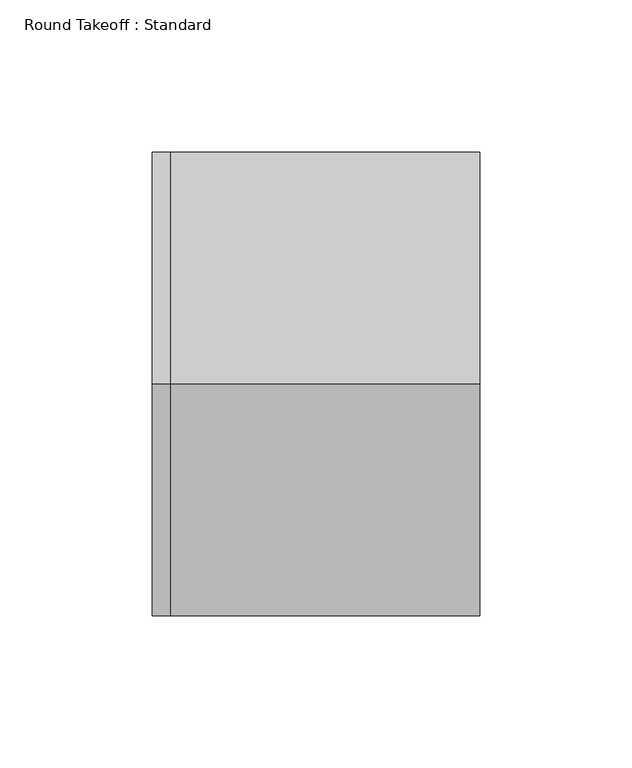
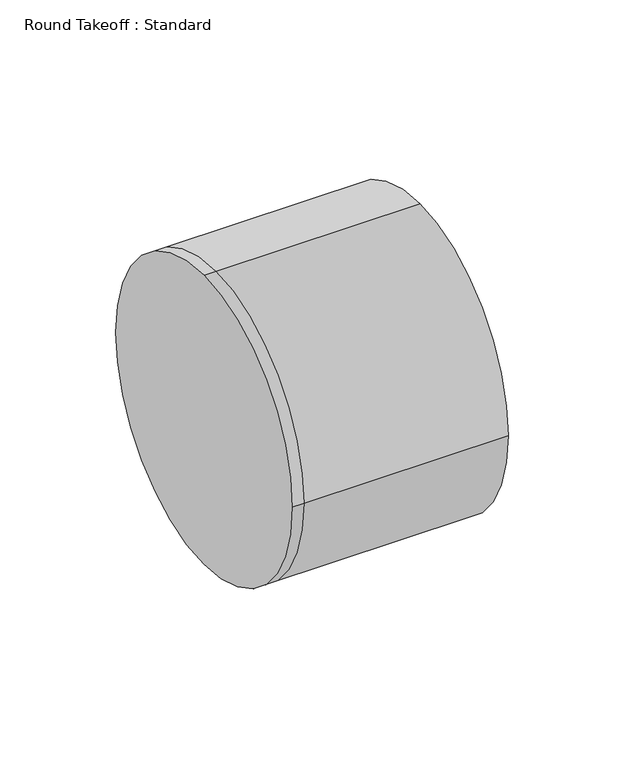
"""IFC4 building model written with IfcOpenShell, lengths in millimetres: duct fitting geometry, Round Takeoff : Standard."""

from ifc_helpers import new_model, si_unit, frame, origin, place, context, project, spatial, circle_curve, source, transform, mapped, element, save
from ifc_brep_helpers import plane_surface, cylinder_surface, advanced_brep


def round_takeoff_standard_0a2b6d05(model_context):
    return source(origin(), model_context, "Body", "AdvancedBrep", [
        advanced_brep(
        [(101.6, 0.0, 76.2), (101.6, -76.2, 0.0), (101.6, 0.0, -76.2), (101.6, 76.2, 0.0), (0.0, 76.2, 0.0), (0.0, 0.0, 76.2), (0.0, 0.0, -76.2), (0.0, -76.2, 0.0), (-6.096, 0.0, 76.2), (-6.096, 76.2, 0.0), (-6.096, 0.0, -76.2), (-6.096, -76.2, 0.0)],
        [
            (0, 1, circle_curve(frame((101.6, 0.0, 0.0), z_axis=(1.0, 0.0, 0.0), x_axis=(0.0, 1.0, 0.0)), 76.2)),
            (1, 2, circle_curve(frame((101.6, 0.0, 0.0), z_axis=(1.0, 0.0, 0.0), x_axis=(0.0, 1.0, 0.0)), 76.2)),
            (2, 3, circle_curve(frame((101.6, 0.0, 0.0), z_axis=(1.0, 0.0, 0.0), x_axis=(0.0, 1.0, 0.0)), 76.2)),
            (3, 0, circle_curve(frame((101.6, 0.0, 0.0), z_axis=(1.0, 0.0, 0.0), x_axis=(0.0, 1.0, 0.0)), 76.2)),
            (3, 4),
            (4, 5, circle_curve(frame((0.0, 0.0, 0.0), z_axis=(1.0, 0.0, 0.0), x_axis=(0.0, 1.0, 0.0)), 76.2)),
            (5, 0),
            (2, 6),
            (6, 4, circle_curve(frame((0.0, 0.0, 0.0), z_axis=(1.0, 0.0, 0.0), x_axis=(0.0, 1.0, 0.0)), 76.2)),
            (1, 7),
            (7, 6, circle_curve(frame((0.0, 0.0, 0.0), z_axis=(1.0, 0.0, 0.0), x_axis=(0.0, 1.0, 0.0)), 76.2)),
            (5, 7, circle_curve(frame((0.0, 0.0, 0.0), z_axis=(1.0, 0.0, 0.0), x_axis=(0.0, 1.0, 0.0)), 76.2)),
            (8, 9, circle_curve(frame((-6.096, 0.0, 0.0), z_axis=(-1.0, 0.0, 0.0), x_axis=(0.0, 1.0, 0.0)), 76.2)),
            (9, 10, circle_curve(frame((-6.096, 0.0, 0.0), z_axis=(-1.0, 0.0, 0.0), x_axis=(0.0, 1.0, 0.0)), 76.2)),
            (10, 11, circle_curve(frame((-6.096, 0.0, 0.0), z_axis=(-1.0, 0.0, 0.0), x_axis=(0.0, 1.0, 0.0)), 76.2)),
            (11, 8, circle_curve(frame((-6.096, 0.0, 0.0), z_axis=(-1.0, 0.0, 0.0), x_axis=(0.0, 1.0, 0.0)), 76.2)),
            (8, 5),
            (4, 9),
            (6, 10),
            (7, 11),
        ],
        [
            plane_surface(frame((101.6, 0.0, 0.0), z_axis=(1.0, 0.0, 0.0), x_axis=(0.0, 0.0, 1.0))),
            cylinder_surface(frame((0.0, 0.0, 0.0), z_axis=(-1.0, 0.0, 0.0), x_axis=(0.0, 1.0, 0.0)), 76.2),
            plane_surface(frame((-6.096, 0.0, 0.0), z_axis=(-1.0, 0.0, 0.0), x_axis=(0.0, 0.0, 1.0))),
            cylinder_surface(frame((-6.096, 0.0, 0.0), z_axis=(-1.0, 0.0, 0.0), x_axis=(0.0, 1.0, 0.0)), 76.2),
        ],
        [
            (0, [[1, 2, 3, 4]]),
            (1, [[-4, 5, 6, 7]]),
            (1, [[-3, 8, 9, -5]]),
            (1, [[-2, 10, 11, -8]]),
            (1, [[-1, -7, 12, -10]]),
            (2, [[13, 14, 15, 16]]),
            (3, [[-13, 17, -6, 18]]),
            (3, [[-14, -18, -9, 19]]),
            (3, [[-15, -19, -11, 20]]),
            (3, [[-16, -20, -12, -17]]),
        ],
    ),
    ])


if __name__ == "__main__":
    model = new_model("IFC4")
    model_context = context("Model", 3, world=origin())
    ifc_project = project(units=[si_unit("LENGTHUNIT", "METRE", prefix="MILLI")], contexts=[model_context])
    site = spatial("IfcSite", under=ifc_project)
    building = spatial("IfcBuilding", under=site)
    placement = place(None, origin())
    round_takeoff_standard_shape = round_takeoff_standard_0a2b6d05(model_context)
    element("IfcDuctFitting", 1, ObjectType="Round Takeoff : Standard", at=placement, inside=building, context=model_context, shape_type="MappedRepresentation", body=[
        mapped(round_takeoff_standard_shape, transform((0.0, 0.0, 0.0), x_axis=(1.0, 0.0, 0.0), y_axis=(0.0, 1.0, 0.0), z_axis=(0.0, 0.0, 1.0))),
    ])
    save(model, "model.ifc")
